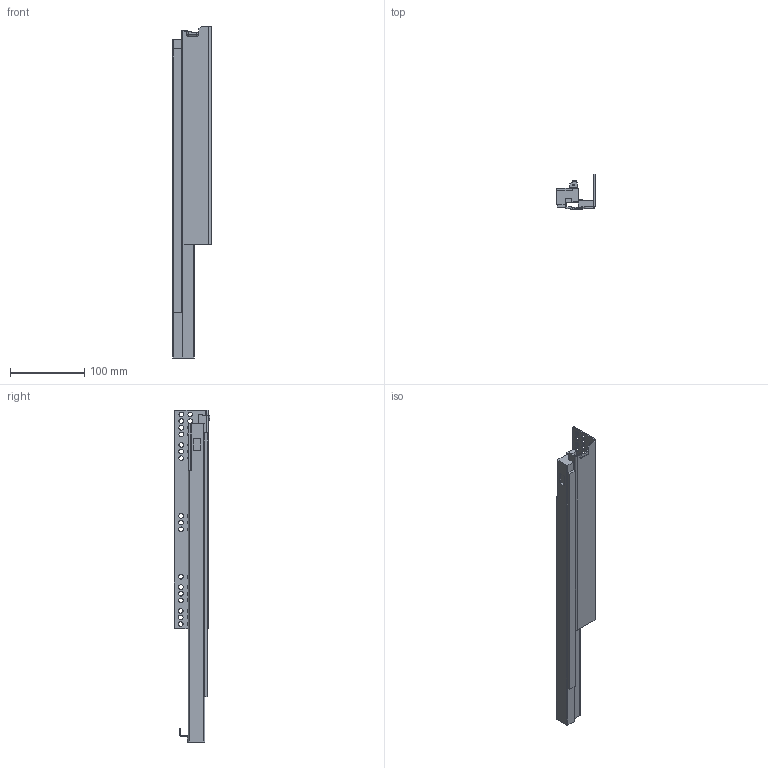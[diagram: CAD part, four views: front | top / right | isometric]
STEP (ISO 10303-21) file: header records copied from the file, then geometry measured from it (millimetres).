
FILE_DESCRIPTION (( 'STEP AP203' ), '1' );
FILE_NAME ('TS10450H-R-DTC3D-close.STEP', '2021-07-09T05:17:11', ( 'df' ), ( 'Microsoft' ), 'SwSTEP 2.0', 'SolidWorks 2018', '' );
FILE_SCHEMA (( 'CONFIG_CONTROL_DESIGN' ));
Length unit declared in the file: millimetre
Products named in the file (1): TS10450H-R-DTC3D-close
Bounding box: 51.73 x 48 x 448 mm (x, y, z)
Volume: 344024.1 mm3; surface area: 96562.7 mm2
Topology: 1 solids, 1 shells, 295 faces, 839 edges, 550 vertices
Faces by surface type: cylinder 116, plane 113, bspline 47, torus 15, sphere 4
Entity records: 11465 total; most frequent: CARTESIAN_POINT 3720, ORIENTED_EDGE 1670, DIRECTION 1480, EDGE_CURVE 835, VERTEX_POINT 550, AXIS2_PLACEMENT_3D 512, LINE 456, VECTOR 456
